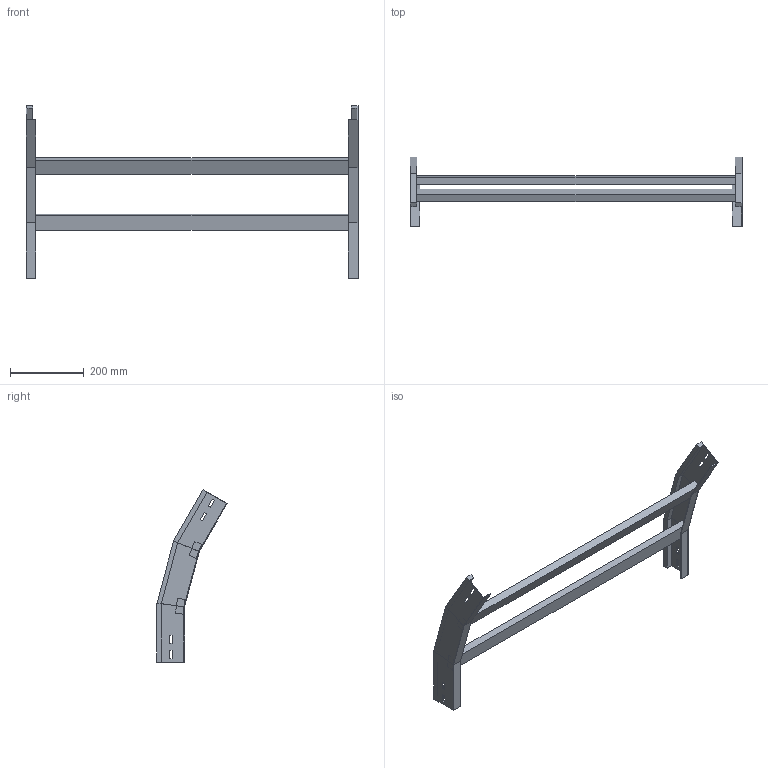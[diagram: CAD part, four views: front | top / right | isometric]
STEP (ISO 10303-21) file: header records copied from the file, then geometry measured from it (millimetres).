
FILE_DESCRIPTION (( 'STEP AP214' ), '1' );
FILE_NAME ('A2_35B3C900.step', '2025-02-21T14:50:12', ( '' ), ( '' ), 'SwSTEP 2.0', 'SolidWorks 2023', '' );
FILE_SCHEMA (( 'AUTOMOTIVE_DESIGN' ));
Length unit declared in the file: millimetre
Products named in the file (3): A2_35B3C900; LONGH.DISCESA_30°_H75_R300; TRAVERSINO_900
Assembly tree (5 placements, depth 2):
  A2_35B3C900
    LONGH.DISCESA_30°_H75_R300  x2
    TRAVERSINO_900  x3
Bounding box: 900 x 190.12 x 467.12 mm (x, y, z)
Volume: 2551466.1 mm3; surface area: 553360.5 mm2
Topology: 5 solids, 5 shells, 102 faces, 244 edges, 152 vertices
Faces by surface type: plane 102
Entity records: 1480 total; most frequent: CARTESIAN_POINT 244, ORIENTED_EDGE 232, DIRECTION 228, VECTOR 116, EDGE_CURVE 116, LINE 116, VERTEX_POINT 72, AXIS2_PLACEMENT_3D 56
